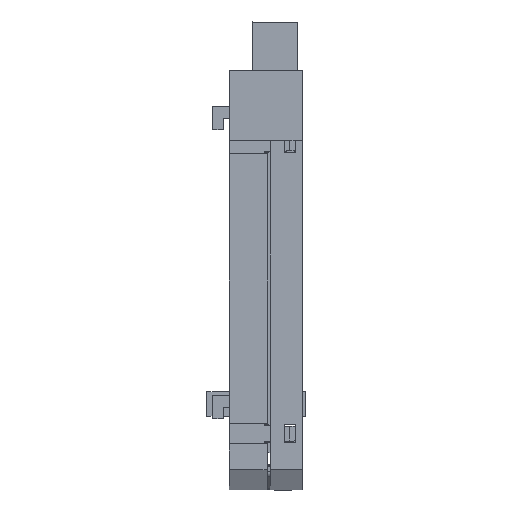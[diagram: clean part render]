
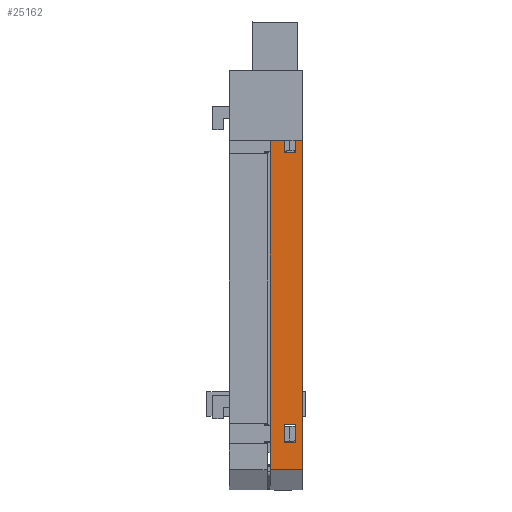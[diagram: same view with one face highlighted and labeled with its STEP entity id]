
A CAD part, front view. The second image highlights one B-rep face of the part: STEP entity #25162.
In plain terms, the highlighted planar face has unit normal (0, -1, 0).
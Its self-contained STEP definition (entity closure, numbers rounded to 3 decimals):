
#375 = VERTEX_POINT ( 'NONE', #25833 ) ;
#1063 = CARTESIAN_POINT ( 'NONE',  ( 2.4, 0., -10.945 ) ) ;
#1417 = VERTEX_POINT ( 'NONE', #3888 ) ;
#1639 = CARTESIAN_POINT ( 'NONE',  ( 5.5, 0., 0. ) ) ;
#2006 = PLANE ( 'NONE',  #17013 ) ;
#2899 = EDGE_CURVE ( 'NONE', #375, #27748, #31487, .T. ) ;
#3157 = VECTOR ( 'NONE', #3650, 1000. ) ;
#3650 = DIRECTION ( 'NONE',  ( -1., 0., 0. ) ) ;
#3888 = CARTESIAN_POINT ( 'NONE',  ( 4.4, 0., -10.945 ) ) ;
#4436 = CARTESIAN_POINT ( 'NONE',  ( 2.4, 0., -10.945 ) ) ;
#4584 = DIRECTION ( 'NONE',  ( 0., 1., 0. ) ) ;
#4719 = ORIENTED_EDGE ( 'NONE', *, *, #12077, .T. ) ;
#4773 = LINE ( 'NONE', #1063, #3157 ) ;
#4978 = EDGE_CURVE ( 'NONE', #31271, #9059, #10152, .T. ) ;
#5051 = EDGE_LOOP ( 'NONE', ( #30472, #15755, #8178, #7652 ) ) ;
#5065 = ORIENTED_EDGE ( 'NONE', *, *, #32074, .T. ) ;
#6485 = EDGE_CURVE ( 'NONE', #1417, #31677, #4773, .T. ) ;
#6565 = CARTESIAN_POINT ( 'NONE',  ( 2.4, 0., -57.545 ) ) ;
#6567 = VERTEX_POINT ( 'NONE', #14309 ) ;
#6789 = EDGE_CURVE ( 'NONE', #24864, #19226, #26864, .T. ) ;
#6802 = VECTOR ( 'NONE', #22791, 1000. ) ;
#7229 = ORIENTED_EDGE ( 'NONE', *, *, #16301, .F. ) ;
#7384 = EDGE_CURVE ( 'NONE', #33271, #6567, #15551, .T. ) ;
#7652 = ORIENTED_EDGE ( 'NONE', *, *, #6485, .T. ) ;
#8028 = CARTESIAN_POINT ( 'NONE',  ( 4.4, 0., -57.545 ) ) ;
#8178 = ORIENTED_EDGE ( 'NONE', *, *, #20765, .T. ) ;
#9059 = VERTEX_POINT ( 'NONE', #13300 ) ;
#9138 = DIRECTION ( 'NONE',  ( 1., 0., 0. ) ) ;
#9547 = ORIENTED_EDGE ( 'NONE', *, *, #23627, .T. ) ;
#9684 = EDGE_LOOP ( 'NONE', ( #5065, #20262, #7229, #4719 ) ) ;
#10152 = LINE ( 'NONE', #28357, #16997 ) ;
#10334 = DIRECTION ( 'NONE',  ( 0., 0., -1. ) ) ;
#11421 = CARTESIAN_POINT ( 'NONE',  ( 0., 0., 0. ) ) ;
#11587 = VECTOR ( 'NONE', #28054, 1000. ) ;
#11843 = DIRECTION ( 'NONE',  ( 0., 0., -1. ) ) ;
#11857 = CARTESIAN_POINT ( 'NONE',  ( 5.5, 0., -65.25 ) ) ;
#11930 = VECTOR ( 'NONE', #29701, 1000. ) ;
#12077 = EDGE_CURVE ( 'NONE', #27778, #31984, #18448, .T. ) ;
#12486 = VECTOR ( 'NONE', #9138, 1000. ) ;
#13195 = VECTOR ( 'NONE', #25337, 1000. ) ;
#13300 = CARTESIAN_POINT ( 'NONE',  ( 4.4, 0., -60.645 ) ) ;
#13561 = CARTESIAN_POINT ( 'NONE',  ( 0., 0., -65.25 ) ) ;
#14309 = CARTESIAN_POINT ( 'NONE',  ( 4.4, 0., -7.845 ) ) ;
#14418 = LINE ( 'NONE', #20198, #6802 ) ;
#14460 = CARTESIAN_POINT ( 'NONE',  ( 0., 0., 0. ) ) ;
#14544 = VECTOR ( 'NONE', #22443, 1000. ) ;
#15551 = LINE ( 'NONE', #31989, #30085 ) ;
#15755 = ORIENTED_EDGE ( 'NONE', *, *, #7384, .T. ) ;
#16301 = EDGE_CURVE ( 'NONE', #27778, #375, #22759, .T. ) ;
#16552 = DIRECTION ( 'NONE',  ( 1., 0., 0. ) ) ;
#16997 = VECTOR ( 'NONE', #10334, 1000. ) ;
#17013 = AXIS2_PLACEMENT_3D ( 'NONE', #19867, #4584, #22586 ) ;
#17626 = CARTESIAN_POINT ( 'NONE',  ( 2.4, 0., -60.645 ) ) ;
#17769 = VECTOR ( 'NONE', #32496, 1000. ) ;
#17804 = CARTESIAN_POINT ( 'NONE',  ( 5.5, 0., 0. ) ) ;
#17860 = CARTESIAN_POINT ( 'NONE',  ( 2.4, 0., -7.845 ) ) ;
#17944 = EDGE_LOOP ( 'NONE', ( #19595, #26583, #9547, #24533 ) ) ;
#18448 = LINE ( 'NONE', #17804, #11587 ) ;
#19226 = VERTEX_POINT ( 'NONE', #26359 ) ;
#19595 = ORIENTED_EDGE ( 'NONE', *, *, #25054, .T. ) ;
#19867 = CARTESIAN_POINT ( 'NONE',  ( 5.5, 0., 0. ) ) ;
#20198 = CARTESIAN_POINT ( 'NONE',  ( 4.4, 0., -10.945 ) ) ;
#20262 = ORIENTED_EDGE ( 'NONE', *, *, #2899, .F. ) ;
#20354 = CARTESIAN_POINT ( 'NONE',  ( 2.4, 0., -10.945 ) ) ;
#20765 = EDGE_CURVE ( 'NONE', #6567, #1417, #14418, .T. ) ;
#20792 = FACE_BOUND ( 'NONE', #5051, .T. ) ;
#21609 = FACE_BOUND ( 'NONE', #17944, .T. ) ;
#22443 = DIRECTION ( 'NONE',  ( 0., 0., 1. ) ) ;
#22586 = DIRECTION ( 'NONE',  ( 0., 0., 1. ) ) ;
#22759 = LINE ( 'NONE', #1639, #28832 ) ;
#22791 = DIRECTION ( 'NONE',  ( 0., 0., -1. ) ) ;
#23627 = EDGE_CURVE ( 'NONE', #19226, #31271, #33074, .T. ) ;
#24533 = ORIENTED_EDGE ( 'NONE', *, *, #4978, .T. ) ;
#24864 = VERTEX_POINT ( 'NONE', #17626 ) ;
#25054 = EDGE_CURVE ( 'NONE', #9059, #24864, #25635, .T. ) ;
#25162 = ADVANCED_FACE ( 'NONE', ( #20792, #21609, #28471 ), #2006, .F. ) ;
#25337 = DIRECTION ( 'NONE',  ( 0., 0., 1. ) ) ;
#25635 = LINE ( 'NONE', #27078, #11930 ) ;
#25833 = CARTESIAN_POINT ( 'NONE',  ( 5.5, 0., -65.25 ) ) ;
#26359 = CARTESIAN_POINT ( 'NONE',  ( 2.4, 0., -57.545 ) ) ;
#26546 = LINE ( 'NONE', #14460, #32622 ) ;
#26583 = ORIENTED_EDGE ( 'NONE', *, *, #6789, .T. ) ;
#26864 = LINE ( 'NONE', #30575, #13195 ) ;
#27078 = CARTESIAN_POINT ( 'NONE',  ( 2.4, 0., -60.645 ) ) ;
#27297 = DIRECTION ( 'NONE',  ( 0., 0., -1. ) ) ;
#27379 = EDGE_CURVE ( 'NONE', #31677, #33271, #32698, .T. ) ;
#27748 = VERTEX_POINT ( 'NONE', #13561 ) ;
#27778 = VERTEX_POINT ( 'NONE', #31615 ) ;
#28054 = DIRECTION ( 'NONE',  ( -1., 0., 0. ) ) ;
#28357 = CARTESIAN_POINT ( 'NONE',  ( 4.4, 0., -60.645 ) ) ;
#28471 = FACE_OUTER_BOUND ( 'NONE', #9684, .T. ) ;
#28832 = VECTOR ( 'NONE', #11843, 1000. ) ;
#29701 = DIRECTION ( 'NONE',  ( -1., 0., 0. ) ) ;
#30085 = VECTOR ( 'NONE', #16552, 1000. ) ;
#30472 = ORIENTED_EDGE ( 'NONE', *, *, #27379, .T. ) ;
#30575 = CARTESIAN_POINT ( 'NONE',  ( 2.4, 0., -60.645 ) ) ;
#31271 = VERTEX_POINT ( 'NONE', #8028 ) ;
#31487 = LINE ( 'NONE', #11857, #17769 ) ;
#31615 = CARTESIAN_POINT ( 'NONE',  ( 5.5, 0., 0. ) ) ;
#31677 = VERTEX_POINT ( 'NONE', #20354 ) ;
#31984 = VERTEX_POINT ( 'NONE', #11421 ) ;
#31989 = CARTESIAN_POINT ( 'NONE',  ( 2.4, 0., -7.845 ) ) ;
#32074 = EDGE_CURVE ( 'NONE', #31984, #27748, #26546, .T. ) ;
#32496 = DIRECTION ( 'NONE',  ( -1., 0., 0. ) ) ;
#32622 = VECTOR ( 'NONE', #27297, 1000. ) ;
#32698 = LINE ( 'NONE', #4436, #14544 ) ;
#33074 = LINE ( 'NONE', #6565, #12486 ) ;
#33271 = VERTEX_POINT ( 'NONE', #17860 ) ;
